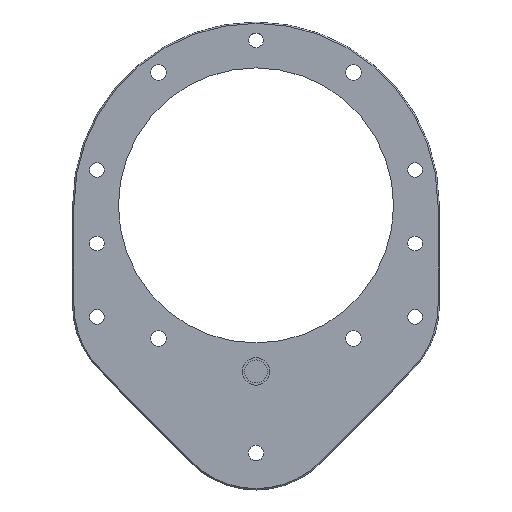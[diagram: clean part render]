
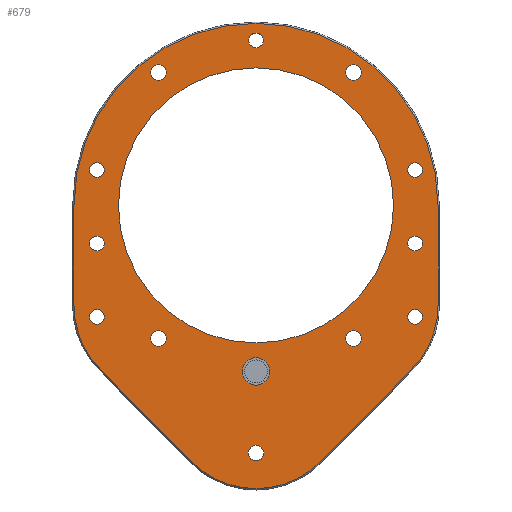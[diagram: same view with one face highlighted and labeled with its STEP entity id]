
A CAD part, top view. The second image highlights one B-rep face of the part: STEP entity #679.
In plain terms, the highlighted planar face has unit normal (0, 0, 1).
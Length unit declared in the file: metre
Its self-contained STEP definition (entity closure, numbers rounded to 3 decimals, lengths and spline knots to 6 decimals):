
#20=LINE('',#1086,#60);
#21=LINE('',#1091,#61);
#22=LINE('',#1095,#62);
#23=LINE('',#1099,#63);
#60=VECTOR('',#874,1.);
#61=VECTOR('',#877,1.);
#62=VECTOR('',#880,1.);
#63=VECTOR('',#883,1.);
#100=PLANE('',#747);
#128=ORIENTED_EDGE('',*,*,#300,.F.);
#129=ORIENTED_EDGE('',*,*,#301,.F.);
#130=ORIENTED_EDGE('',*,*,#302,.F.);
#131=ORIENTED_EDGE('',*,*,#303,.F.);
#132=ORIENTED_EDGE('',*,*,#304,.F.);
#133=ORIENTED_EDGE('',*,*,#305,.F.);
#134=ORIENTED_EDGE('',*,*,#306,.F.);
#135=ORIENTED_EDGE('',*,*,#307,.F.);
#136=ORIENTED_EDGE('',*,*,#308,.T.);
#137=ORIENTED_EDGE('',*,*,#309,.T.);
#138=ORIENTED_EDGE('',*,*,#310,.T.);
#139=ORIENTED_EDGE('',*,*,#311,.T.);
#140=ORIENTED_EDGE('',*,*,#312,.T.);
#141=ORIENTED_EDGE('',*,*,#313,.T.);
#142=ORIENTED_EDGE('',*,*,#314,.T.);
#143=ORIENTED_EDGE('',*,*,#315,.T.);
#144=ORIENTED_EDGE('',*,*,#298,.F.);
#145=ORIENTED_EDGE('',*,*,#296,.F.);
#146=ORIENTED_EDGE('',*,*,#294,.F.);
#147=ORIENTED_EDGE('',*,*,#292,.F.);
#148=ORIENTED_EDGE('',*,*,#290,.F.);
#149=ORIENTED_EDGE('',*,*,#288,.F.);
#288=EDGE_CURVE('',#374,#374,#436,.T.);
#290=EDGE_CURVE('',#376,#376,#438,.T.);
#292=EDGE_CURVE('',#378,#378,#440,.T.);
#294=EDGE_CURVE('',#380,#380,#442,.T.);
#296=EDGE_CURVE('',#382,#382,#444,.T.);
#298=EDGE_CURVE('',#384,#384,#446,.T.);
#300=EDGE_CURVE('',#386,#386,#448,.F.);
#301=EDGE_CURVE('',#387,#387,#449,.F.);
#302=EDGE_CURVE('',#388,#388,#450,.F.);
#303=EDGE_CURVE('',#389,#389,#451,.F.);
#304=EDGE_CURVE('',#390,#390,#452,.F.);
#305=EDGE_CURVE('',#391,#391,#453,.F.);
#306=EDGE_CURVE('',#392,#392,#454,.F.);
#307=EDGE_CURVE('',#393,#393,#455,.F.);
#308=EDGE_CURVE('',#394,#395,#20,.T.);
#309=EDGE_CURVE('',#395,#396,#456,.F.);
#310=EDGE_CURVE('',#396,#397,#21,.T.);
#311=EDGE_CURVE('',#397,#398,#457,.F.);
#312=EDGE_CURVE('',#398,#399,#22,.T.);
#313=EDGE_CURVE('',#399,#400,#458,.F.);
#314=EDGE_CURVE('',#400,#401,#23,.T.);
#315=EDGE_CURVE('',#401,#394,#459,.F.);
#374=VERTEX_POINT('',#1041);
#376=VERTEX_POINT('',#1046);
#378=VERTEX_POINT('',#1051);
#380=VERTEX_POINT('',#1056);
#382=VERTEX_POINT('',#1061);
#384=VERTEX_POINT('',#1066);
#386=VERTEX_POINT('',#1071);
#387=VERTEX_POINT('',#1073);
#388=VERTEX_POINT('',#1075);
#389=VERTEX_POINT('',#1077);
#390=VERTEX_POINT('',#1079);
#391=VERTEX_POINT('',#1081);
#392=VERTEX_POINT('',#1083);
#393=VERTEX_POINT('',#1085);
#394=VERTEX_POINT('',#1087);
#395=VERTEX_POINT('',#1088);
#396=VERTEX_POINT('',#1090);
#397=VERTEX_POINT('',#1092);
#398=VERTEX_POINT('',#1094);
#399=VERTEX_POINT('',#1096);
#400=VERTEX_POINT('',#1098);
#401=VERTEX_POINT('',#1100);
#436=CIRCLE('',#730,0.002159);
#438=CIRCLE('',#733,0.002159);
#440=CIRCLE('',#736,0.002159);
#442=CIRCLE('',#739,0.002159);
#444=CIRCLE('',#742,0.002159);
#446=CIRCLE('',#745,0.0381);
#448=CIRCLE('',#748,0.002032);
#449=CIRCLE('',#749,0.002032);
#450=CIRCLE('',#750,0.002032);
#451=CIRCLE('',#751,0.002032);
#452=CIRCLE('',#752,0.002032);
#453=CIRCLE('',#753,0.002032);
#454=CIRCLE('',#754,0.00381);
#455=CIRCLE('',#755,0.002032);
#456=CIRCLE('',#756,0.025019);
#457=CIRCLE('',#757,0.025019);
#458=CIRCLE('',#758,0.050419);
#459=CIRCLE('',#759,0.025019);
#494=EDGE_LOOP('',(#128));
#495=EDGE_LOOP('',(#129));
#496=EDGE_LOOP('',(#130));
#497=EDGE_LOOP('',(#131));
#498=EDGE_LOOP('',(#132));
#499=EDGE_LOOP('',(#133));
#500=EDGE_LOOP('',(#134));
#501=EDGE_LOOP('',(#135));
#502=EDGE_LOOP('',(#136,#137,#138,#139,#140,#141,#142,#143));
#503=EDGE_LOOP('',(#144));
#504=EDGE_LOOP('',(#145));
#505=EDGE_LOOP('',(#146));
#506=EDGE_LOOP('',(#147));
#507=EDGE_LOOP('',(#148));
#508=EDGE_LOOP('',(#149));
#580=FACE_BOUND('',#494,.T.);
#581=FACE_BOUND('',#495,.T.);
#582=FACE_BOUND('',#496,.T.);
#583=FACE_BOUND('',#497,.T.);
#584=FACE_BOUND('',#498,.T.);
#585=FACE_BOUND('',#499,.T.);
#586=FACE_BOUND('',#500,.T.);
#587=FACE_BOUND('',#501,.T.);
#588=FACE_BOUND('',#502,.T.);
#589=FACE_BOUND('',#503,.T.);
#590=FACE_BOUND('',#504,.T.);
#591=FACE_BOUND('',#505,.T.);
#592=FACE_BOUND('',#506,.T.);
#593=FACE_BOUND('',#507,.T.);
#594=FACE_BOUND('',#508,.T.);
#679=ADVANCED_FACE('',(#580,#581,#582,#583,#584,#585,#586,#587,#588,#589,
#590,#591,#592,#593,#594),#100,.F.);
#730=AXIS2_PLACEMENT_3D('',#1040,#822,#823);
#733=AXIS2_PLACEMENT_3D('',#1045,#828,#829);
#736=AXIS2_PLACEMENT_3D('',#1050,#834,#835);
#739=AXIS2_PLACEMENT_3D('',#1055,#840,#841);
#742=AXIS2_PLACEMENT_3D('',#1060,#846,#847);
#745=AXIS2_PLACEMENT_3D('',#1065,#852,#853);
#747=AXIS2_PLACEMENT_3D('',#1069,#856,#857);
#748=AXIS2_PLACEMENT_3D('',#1070,#858,#859);
#749=AXIS2_PLACEMENT_3D('',#1072,#860,#861);
#750=AXIS2_PLACEMENT_3D('',#1074,#862,#863);
#751=AXIS2_PLACEMENT_3D('',#1076,#864,#865);
#752=AXIS2_PLACEMENT_3D('',#1078,#866,#867);
#753=AXIS2_PLACEMENT_3D('',#1080,#868,#869);
#754=AXIS2_PLACEMENT_3D('',#1082,#870,#871);
#755=AXIS2_PLACEMENT_3D('',#1084,#872,#873);
#756=AXIS2_PLACEMENT_3D('',#1089,#875,#876);
#757=AXIS2_PLACEMENT_3D('',#1093,#878,#879);
#758=AXIS2_PLACEMENT_3D('',#1097,#881,#882);
#759=AXIS2_PLACEMENT_3D('',#1101,#884,#885);
#822=DIRECTION('',(0.,0.,1.));
#823=DIRECTION('',(1.,0.,0.));
#828=DIRECTION('',(0.,0.,1.));
#829=DIRECTION('',(1.,0.,0.));
#834=DIRECTION('',(0.,0.,1.));
#835=DIRECTION('',(1.,0.,0.));
#840=DIRECTION('',(0.,0.,1.));
#841=DIRECTION('',(1.,0.,0.));
#846=DIRECTION('',(0.,0.,1.));
#847=DIRECTION('',(1.,0.,0.));
#852=DIRECTION('',(0.,0.,1.));
#853=DIRECTION('',(1.,0.,0.));
#856=DIRECTION('',(0.,0.,-1.));
#857=DIRECTION('',(1.,0.,0.));
#858=DIRECTION('',(0.,0.,-1.));
#859=DIRECTION('',(-1.,0.,0.));
#860=DIRECTION('',(0.,0.,-1.));
#861=DIRECTION('',(-1.,0.,0.));
#862=DIRECTION('',(0.,0.,-1.));
#863=DIRECTION('',(-1.,0.,0.));
#864=DIRECTION('',(0.,0.,-1.));
#865=DIRECTION('',(-1.,0.,0.));
#866=DIRECTION('',(0.,0.,-1.));
#867=DIRECTION('',(-1.,0.,0.));
#868=DIRECTION('',(0.,0.,-1.));
#869=DIRECTION('',(-1.,0.,0.));
#870=DIRECTION('',(0.,0.,-1.));
#871=DIRECTION('',(-1.,0.,0.));
#872=DIRECTION('',(0.,0.,-1.));
#873=DIRECTION('',(-1.,0.,0.));
#874=DIRECTION('',(0.702,-0.712,0.));
#875=DIRECTION('',(0.,0.,-1.));
#876=DIRECTION('',(-1.,0.,0.));
#877=DIRECTION('',(0.702,0.712,0.));
#878=DIRECTION('',(0.,0.,-1.));
#879=DIRECTION('',(-1.,0.,0.));
#880=DIRECTION('',(0.,1.,0.));
#881=DIRECTION('',(0.,0.,-1.));
#882=DIRECTION('',(-1.,0.,0.));
#883=DIRECTION('',(0.,-1.,0.));
#884=DIRECTION('',(0.,0.,-1.));
#885=DIRECTION('',(-1.,0.,0.));
#1040=CARTESIAN_POINT('',(0.026988,-0.03683,0.00635));
#1041=CARTESIAN_POINT('',(0.029147,-0.03683,0.00635));
#1045=CARTESIAN_POINT('',(0.026988,0.03683,0.00635));
#1046=CARTESIAN_POINT('',(0.029147,0.03683,0.00635));
#1050=CARTESIAN_POINT('',(-0.026988,0.03683,0.00635));
#1051=CARTESIAN_POINT('',(-0.024829,0.03683,0.00635));
#1055=CARTESIAN_POINT('',(-0.026988,-0.03683,0.00635));
#1056=CARTESIAN_POINT('',(-0.024829,-0.03683,0.00635));
#1060=CARTESIAN_POINT('',(0.,-0.06858,0.00635));
#1061=CARTESIAN_POINT('',(0.002159,-0.06858,0.00635));
#1065=CARTESIAN_POINT('',(0.,0.,0.00635));
#1066=CARTESIAN_POINT('',(0.0381,0.,0.00635));
#1069=CARTESIAN_POINT('',(0.,0.,0.00635));
#1070=CARTESIAN_POINT('',(-0.044069,-0.010531,0.00635));
#1071=CARTESIAN_POINT('',(-0.046101,-0.010531,0.00635));
#1072=CARTESIAN_POINT('',(-0.044069,-0.030851,0.00635));
#1073=CARTESIAN_POINT('',(-0.046101,-0.030851,0.00635));
#1074=CARTESIAN_POINT('',(0.044069,-0.010531,0.00635));
#1075=CARTESIAN_POINT('',(0.042037,-0.010531,0.00635));
#1076=CARTESIAN_POINT('',(0.044069,0.009789,0.00635));
#1077=CARTESIAN_POINT('',(0.042037,0.009789,0.00635));
#1078=CARTESIAN_POINT('',(0.044069,-0.030851,0.00635));
#1079=CARTESIAN_POINT('',(0.042037,-0.030851,0.00635));
#1080=CARTESIAN_POINT('',(-0.044069,0.009789,0.00635));
#1081=CARTESIAN_POINT('',(-0.046101,0.009789,0.00635));
#1082=CARTESIAN_POINT('',(0.,-0.045974,0.00635));
#1083=CARTESIAN_POINT('',(-0.00381,-0.045974,0.00635));
#1084=CARTESIAN_POINT('',(0.,0.04572,0.00635));
#1085=CARTESIAN_POINT('',(-0.002032,0.04572,0.00635));
#1086=CARTESIAN_POINT('',(-0.017806,-0.070984,0.00635));
#1087=CARTESIAN_POINT('',(-0.043206,-0.045251,0.00635));
#1088=CARTESIAN_POINT('',(-0.017806,-0.070984,0.00635));
#1089=CARTESIAN_POINT('',(0.,-0.053408,0.00635));
#1090=CARTESIAN_POINT('',(0.017806,-0.070984,0.00635));
#1091=CARTESIAN_POINT('',(0.043206,-0.045251,0.00635));
#1092=CARTESIAN_POINT('',(0.043206,-0.045251,0.00635));
#1093=CARTESIAN_POINT('',(0.0254,-0.027676,0.00635));
#1094=CARTESIAN_POINT('',(0.050419,-0.027676,0.00635));
#1095=CARTESIAN_POINT('',(0.050419,0.,0.00635));
#1096=CARTESIAN_POINT('',(0.050419,0.,0.00635));
#1097=CARTESIAN_POINT('',(0.,0.,0.00635));
#1098=CARTESIAN_POINT('',(-0.050419,0.,0.00635));
#1099=CARTESIAN_POINT('',(-0.050419,-0.027676,0.00635));
#1100=CARTESIAN_POINT('',(-0.050419,-0.027676,0.00635));
#1101=CARTESIAN_POINT('',(-0.0254,-0.027676,0.00635));
